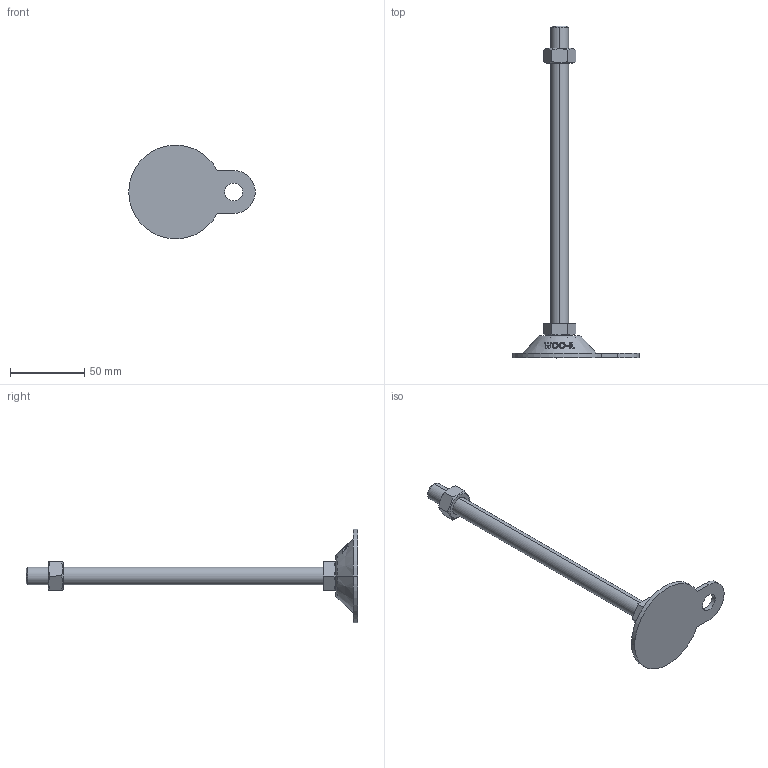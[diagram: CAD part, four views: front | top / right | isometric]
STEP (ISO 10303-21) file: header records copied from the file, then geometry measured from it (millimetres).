
FILE_DESCRIPTION (( 'STEP AP214' ), '1' );
FILE_NAME ('ABL63-M12-200.step', '2021-02-05T04:19:09', ( '' ), ( '' ), 'SwSTEP 2.0', 'SolidWorks 2019', '' );
FILE_SCHEMA (( 'AUTOMOTIVE_DESIGN' ));
Length unit declared in the file: millimetre
Products named in the file (2): ABL63-M12-200
Bounding box: 85 x 223 x 62.83 mm (x, y, z)
Volume: 52443.6 mm3; surface area: 18198.8 mm2
Topology: 2 solids, 2 shells, 128 faces, 325 edges, 212 vertices
Faces by surface type: plane 48, cylinder 38, cone 22, bspline 18, torus 2
Entity records: 5459 total; most frequent: CARTESIAN_POINT 2573, ORIENTED_EDGE 650, DIRECTION 473, EDGE_CURVE 325, VERTEX_POINT 212, AXIS2_PLACEMENT_3D 176, EDGE_LOOP 143, B_SPLINE_CURVE_WITH_KNOTS 140
